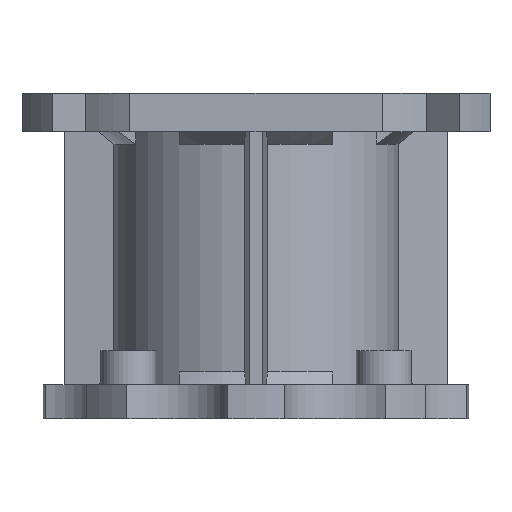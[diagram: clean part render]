
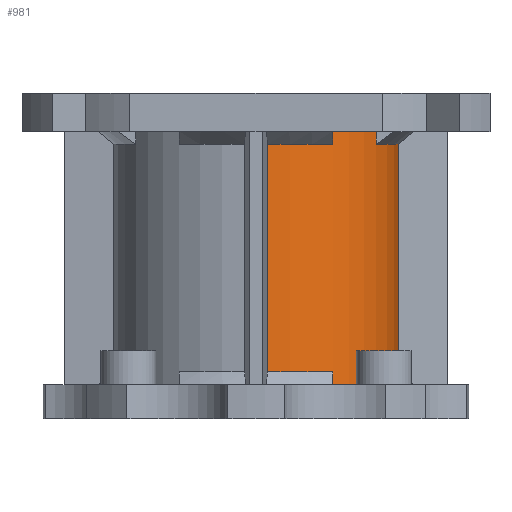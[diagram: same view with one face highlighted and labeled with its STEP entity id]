
A CAD part, front view. The second image highlights one B-rep face of the part: STEP entity #981.
In plain terms, the highlighted cylindrical face has radius 33.5 mm (diameter 67 mm), a partial arc.
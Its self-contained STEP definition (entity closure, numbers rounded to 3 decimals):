
#981=ADVANCED_FACE('',(#1097),#2907,.T.);
#1097=FACE_OUTER_BOUND('',#1219,.T.);
#1219=EDGE_LOOP('',(#1499,#1500,#1501,#1502,#1503,#1504,#1505,#1506,#1507,
#1508,#1509,#1510));
#1499=ORIENTED_EDGE('',*,*,#2012,.F.);
#1500=ORIENTED_EDGE('',*,*,#2015,.T.);
#1501=ORIENTED_EDGE('',*,*,#2016,.T.);
#1502=ORIENTED_EDGE('',*,*,#1988,.T.);
#1503=ORIENTED_EDGE('',*,*,#2017,.F.);
#1504=ORIENTED_EDGE('',*,*,#1979,.T.);
#1505=ORIENTED_EDGE('',*,*,#2010,.F.);
#1506=ORIENTED_EDGE('',*,*,#2018,.T.);
#1507=ORIENTED_EDGE('',*,*,#2005,.F.);
#1508=ORIENTED_EDGE('',*,*,#1982,.T.);
#1509=ORIENTED_EDGE('',*,*,#2019,.F.);
#1510=ORIENTED_EDGE('',*,*,#1985,.T.);
#1979=EDGE_CURVE('',#2735,#2736,#2549,.T.);
#1982=EDGE_CURVE('',#2738,#2739,#2552,.T.);
#1985=EDGE_CURVE('',#2741,#2742,#2555,.T.);
#1988=EDGE_CURVE('',#2744,#2745,#2558,.T.);
#2005=EDGE_CURVE('',#2738,#2824,#2259,.T.);
#2010=EDGE_CURVE('',#2826,#2736,#2264,.T.);
#2012=EDGE_CURVE('',#2827,#2742,#2266,.T.);
#2015=EDGE_CURVE('',#2827,#2829,#2573,.T.);
#2016=EDGE_CURVE('',#2829,#2744,#2269,.T.);
#2017=EDGE_CURVE('',#2735,#2745,#2270,.T.);
#2018=EDGE_CURVE('',#2826,#2824,#2574,.T.);
#2019=EDGE_CURVE('',#2741,#2739,#2271,.T.);
#2259=TRIMMED_CURVE($,#2387,(#4579),(#4580),.T.,.CARTESIAN.);
#2264=TRIMMED_CURVE($,#2392,(#4594),(#4595),.T.,.CARTESIAN.);
#2266=TRIMMED_CURVE($,#2394,(#4600),(#4601),.T.,.CARTESIAN.);
#2269=TRIMMED_CURVE($,#2397,(#4611),(#4612),.T.,.CARTESIAN.);
#2270=TRIMMED_CURVE($,#2398,(#4614),(#4615),.T.,.CARTESIAN.);
#2271=TRIMMED_CURVE($,#2399,(#4619),(#4620),.T.,.CARTESIAN.);
#2387=CIRCLE('',#3298,33.5);
#2392=CIRCLE('',#3303,33.5);
#2394=CIRCLE('',#3305,33.5);
#2397=CIRCLE('',#3308,33.5);
#2398=CIRCLE('',#3309,33.5);
#2399=CIRCLE('',#3310,33.5);
#2549=B_SPLINE_CURVE_WITH_KNOTS('',1,(#4516,#4517),.UNSPECIFIED.,.F.,.F.,
(2,2),(-3.,0.),.UNSPECIFIED.);
#2552=B_SPLINE_CURVE_WITH_KNOTS('',1,(#4524,#4525),.UNSPECIFIED.,.F.,.F.,
(2,2),(-3.,0.),.UNSPECIFIED.);
#2555=B_SPLINE_CURVE_WITH_KNOTS('',1,(#4532,#4533),.UNSPECIFIED.,.F.,.F.,
(2,2),(-3.,0.),.UNSPECIFIED.);
#2558=B_SPLINE_CURVE_WITH_KNOTS('',1,(#4540,#4541),.UNSPECIFIED.,.F.,.F.,
(2,2),(-3.,0.),.UNSPECIFIED.);
#2573=B_SPLINE_CURVE_WITH_KNOTS('',1,(#4608,#4609),.UNSPECIFIED.,.F.,.F.,
(2,2),(0.,53.5),.UNSPECIFIED.);
#2574=B_SPLINE_CURVE_WITH_KNOTS('',1,(#4616,#4617),.UNSPECIFIED.,.F.,.F.,
(2,2),(0.,53.5),.UNSPECIFIED.);
#2735=VERTEX_POINT('',#4248);
#2736=VERTEX_POINT('',#4249);
#2738=VERTEX_POINT('',#4251);
#2739=VERTEX_POINT('',#4252);
#2741=VERTEX_POINT('',#4254);
#2742=VERTEX_POINT('',#4255);
#2744=VERTEX_POINT('',#4257);
#2745=VERTEX_POINT('',#4258);
#2824=VERTEX_POINT('',#4337);
#2826=VERTEX_POINT('',#4339);
#2827=VERTEX_POINT('',#4340);
#2829=VERTEX_POINT('',#4342);
#2907=CYLINDRICAL_SURFACE('',#3218,33.5);
#3218=AXIS2_PLACEMENT_3D('',#3914,#3448,$);
#3298=AXIS2_PLACEMENT_3D($,#4578,#3530,#3531);
#3303=AXIS2_PLACEMENT_3D($,#4593,#3540,#3541);
#3305=AXIS2_PLACEMENT_3D($,#4599,#3544,#3545);
#3308=AXIS2_PLACEMENT_3D($,#4610,#3550,#3551);
#3309=AXIS2_PLACEMENT_3D($,#4613,#3552,#3553);
#3310=AXIS2_PLACEMENT_3D($,#4618,#3554,#3555);
#3448=DIRECTION('',(1.,0.,0.));
#3530=DIRECTION('',(1.,0.,0.));
#3531=DIRECTION('',(0.,-0.537,-0.843));
#3540=DIRECTION('',(-1.,0.,0.));
#3541=DIRECTION('',(0.,-0.081,-0.997));
#3544=DIRECTION('',(1.,0.,0.));
#3545=DIRECTION('',(0.,-0.997,-0.081));
#3550=DIRECTION('',(1.,0.,0.));
#3551=DIRECTION('',(0.,-0.997,-0.081));
#3552=DIRECTION('',(-1.,0.,0.));
#3553=DIRECTION('',(0.,-0.537,-0.843));
#3554=DIRECTION('',(1.,0.,0.));
#3555=DIRECTION('',(0.,-0.843,-0.537));
#3914=CARTESIAN_POINT('',(37.75,0.,0.));
#4248=CARTESIAN_POINT('',(8.,-18.,-28.253));
#4249=CARTESIAN_POINT('',(11.,-18.,-28.253));
#4251=CARTESIAN_POINT('',(64.5,-18.,-28.253));
#4252=CARTESIAN_POINT('',(67.5,-18.,-28.253));
#4254=CARTESIAN_POINT('',(67.5,-28.253,-18.));
#4255=CARTESIAN_POINT('',(64.5,-28.253,-18.));
#4257=CARTESIAN_POINT('',(11.,-28.253,-18.));
#4258=CARTESIAN_POINT('',(8.,-28.253,-18.));
#4337=CARTESIAN_POINT('',(64.5,-2.72,-33.389));
#4339=CARTESIAN_POINT('',(11.,-2.72,-33.389));
#4340=CARTESIAN_POINT('',(64.5,-33.389,-2.72));
#4342=CARTESIAN_POINT('',(11.,-33.389,-2.72));
#4516=CARTESIAN_POINT('',(8.,-18.,-28.253));
#4517=CARTESIAN_POINT('',(11.,-18.,-28.253));
#4524=CARTESIAN_POINT('',(64.5,-18.,-28.253));
#4525=CARTESIAN_POINT('',(67.5,-18.,-28.253));
#4532=CARTESIAN_POINT('',(67.5,-28.253,-18.));
#4533=CARTESIAN_POINT('',(64.5,-28.253,-18.));
#4540=CARTESIAN_POINT('',(11.,-28.253,-18.));
#4541=CARTESIAN_POINT('',(8.,-28.253,-18.));
#4578=CARTESIAN_POINT('',(64.5,0.,0.));
#4579=CARTESIAN_POINT('',(64.5,-18.,-28.253));
#4580=CARTESIAN_POINT('',(64.5,-2.72,-33.389));
#4593=CARTESIAN_POINT('',(11.,0.,0.));
#4594=CARTESIAN_POINT('',(11.,-2.72,-33.389));
#4595=CARTESIAN_POINT('',(11.,-18.,-28.253));
#4599=CARTESIAN_POINT('',(64.5,0.,0.));
#4600=CARTESIAN_POINT('',(64.5,-33.389,-2.72));
#4601=CARTESIAN_POINT('',(64.5,-28.253,-18.));
#4608=CARTESIAN_POINT('',(64.5,-33.389,-2.72));
#4609=CARTESIAN_POINT('',(11.,-33.389,-2.72));
#4610=CARTESIAN_POINT('',(11.,0.,0.));
#4611=CARTESIAN_POINT('',(11.,-33.389,-2.72));
#4612=CARTESIAN_POINT('',(11.,-28.253,-18.));
#4613=CARTESIAN_POINT('',(8.,0.,0.));
#4614=CARTESIAN_POINT('',(8.,-18.,-28.253));
#4615=CARTESIAN_POINT('',(8.,-28.253,-18.));
#4616=CARTESIAN_POINT('',(11.,-2.72,-33.389));
#4617=CARTESIAN_POINT('',(64.5,-2.72,-33.389));
#4618=CARTESIAN_POINT('',(67.5,0.,0.));
#4619=CARTESIAN_POINT('',(67.5,-28.253,-18.));
#4620=CARTESIAN_POINT('',(67.5,-18.,-28.253));
